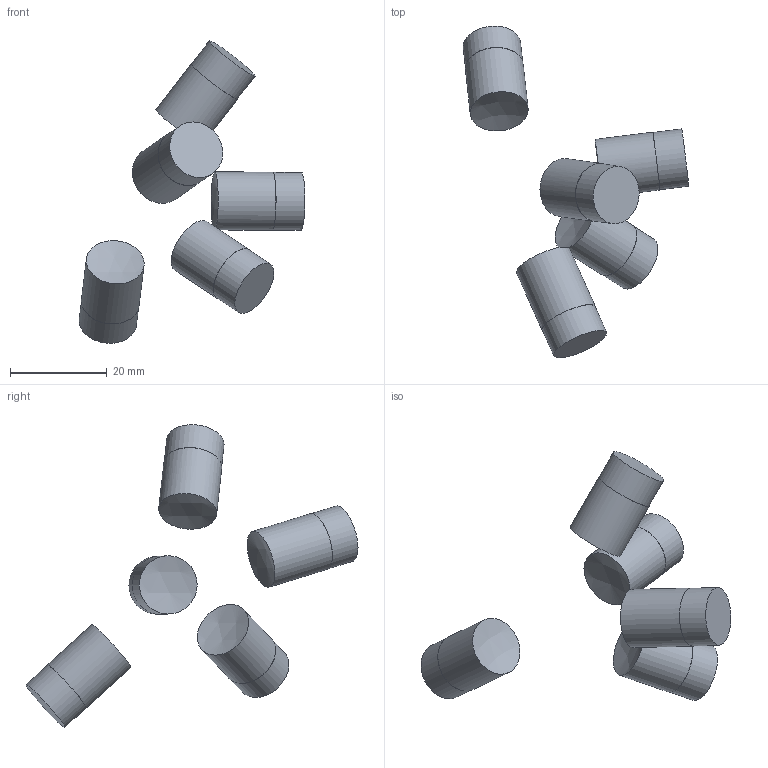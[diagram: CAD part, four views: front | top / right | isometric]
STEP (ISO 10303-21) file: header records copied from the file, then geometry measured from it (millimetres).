
FILE_DESCRIPTION(('Open CASCADE Model'),'2;1');
FILE_NAME('Open CASCADE Shape Model','2026-10-21T12:47:57',('Author'),( 'Open CASCADE'),'Open CASCADE STEP processor 7.9','Open CASCADE 7.9' ,'Unknown');
FILE_SCHEMA(('AUTOMOTIVE_DESIGN { 1 0 10303 214 1 1 1 1 }'));
Length unit declared in the file: millimetre
Products named in the file (1): Open CASCADE STEP translator 7.9 125
Bounding box: 46.55 x 68.45 x 62.38 mm (x, y, z)
Volume: 10062.9 mm3; surface area: 4595.5 mm2
Topology: 4 solids, 4 shells, 24 faces, 35 edges, 24 vertices
Faces by surface type: cylinder 10, plane 10, sphere 4
Full cylindrical faces by diameter (mm): 11.9 x5, 12 x5
Entity records: 1317 total; most frequent: CARTESIAN_POINT 473, DIRECTION 173, ORIENTED_EDGE 74, PCURVE 74, DEFINITIONAL_REPRESENTATION 74, LINE 60, VECTOR 60, AXIS2_PLACEMENT_3D 49
